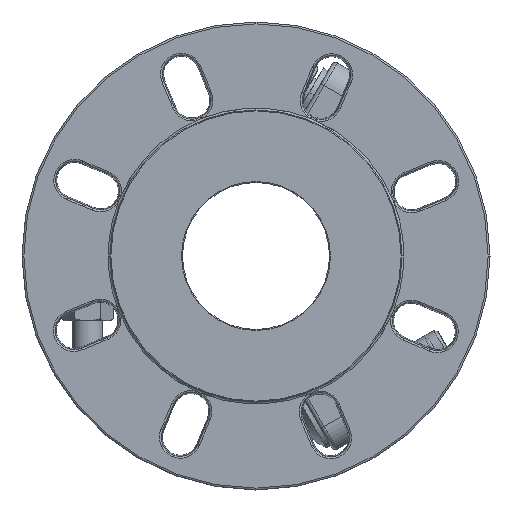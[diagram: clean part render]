
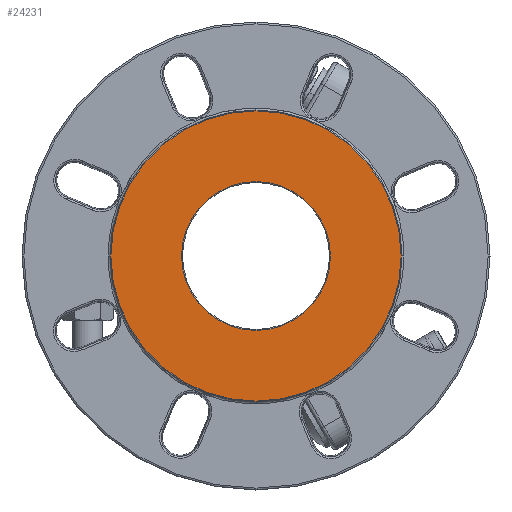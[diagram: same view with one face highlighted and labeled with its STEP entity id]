
A CAD part, left-side view. The second image highlights one B-rep face of the part: STEP entity #24231.
In plain terms, the highlighted planar face has unit normal (-1, 0, 0).
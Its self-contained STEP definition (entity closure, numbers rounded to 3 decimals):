
#5526=CARTESIAN_POINT('',(-20.339,0.,0.));
#5527=DIRECTION('',(-1.,0.,0.));
#5528=DIRECTION('',(0.,-1.,0.));
#5529=AXIS2_PLACEMENT_3D('',#5526,#5527,#5528);
#5531=CARTESIAN_POINT('',(-20.339,0.,0.));
#5532=DIRECTION('',(-1.,0.,0.));
#5533=DIRECTION('',(0.,1.,0.));
#5534=AXIS2_PLACEMENT_3D('',#5531,#5532,#5533);
#5536=CARTESIAN_POINT('',(-20.339,0.,0.));
#5537=DIRECTION('',(1.,0.,0.));
#5538=DIRECTION('',(0.,-1.,0.));
#5539=AXIS2_PLACEMENT_3D('',#5536,#5537,#5538);
#5541=CARTESIAN_POINT('',(-20.339,0.,0.));
#5542=DIRECTION('',(1.,0.,0.));
#5543=DIRECTION('',(0.,1.,0.));
#5544=AXIS2_PLACEMENT_3D('',#5541,#5542,#5543);
#16150=CARTESIAN_POINT('',(-20.339,-39.75,0.));
#16151=CARTESIAN_POINT('',(-20.339,39.75,0.));
#16152=VERTEX_POINT('',#16150);
#16153=VERTEX_POINT('',#16151);
#16158=CARTESIAN_POINT('',(-20.339,-77.509,
0.));
#16159=CARTESIAN_POINT('',(-20.339,77.509,
0.));
#16160=VERTEX_POINT('',#16158);
#16161=VERTEX_POINT('',#16159);
#24216=CARTESIAN_POINT('',(-20.339,0.,0.));
#24217=DIRECTION('',(1.,0.,0.));
#24218=DIRECTION('',(0.,-1.,0.));
#24219=AXIS2_PLACEMENT_3D('',#24216,#24217,#24218);
#24220=PLANE('',#24219);
#24221=ORIENTED_EDGE('',*,*,#23267,.T.);
#24222=ORIENTED_EDGE('',*,*,#23282,.T.);
#24223=EDGE_LOOP('',(#24221,#24222));
#24224=FACE_OUTER_BOUND('',#24223,.F.);
#24226=ORIENTED_EDGE('',*,*,#24225,.T.);
#24228=ORIENTED_EDGE('',*,*,#24227,.T.);
#24229=EDGE_LOOP('',(#24226,#24228));
#24230=FACE_BOUND('',#24229,.F.);
#24231=ADVANCED_FACE('',(#24224,#24230),#24220,.F.);
#5530=CIRCLE('',#5529,39.75);
#5535=CIRCLE('',#5534,39.75);
#5540=CIRCLE('',#5539,77.509);
#5545=CIRCLE('',#5544,77.509);
#23267=EDGE_CURVE('',#16160,#16161,#5540,.T.);
#23282=EDGE_CURVE('',#16161,#16160,#5545,.T.);
#24225=EDGE_CURVE('',#16152,#16153,#5530,.T.);
#24227=EDGE_CURVE('',#16153,#16152,#5535,.T.);
